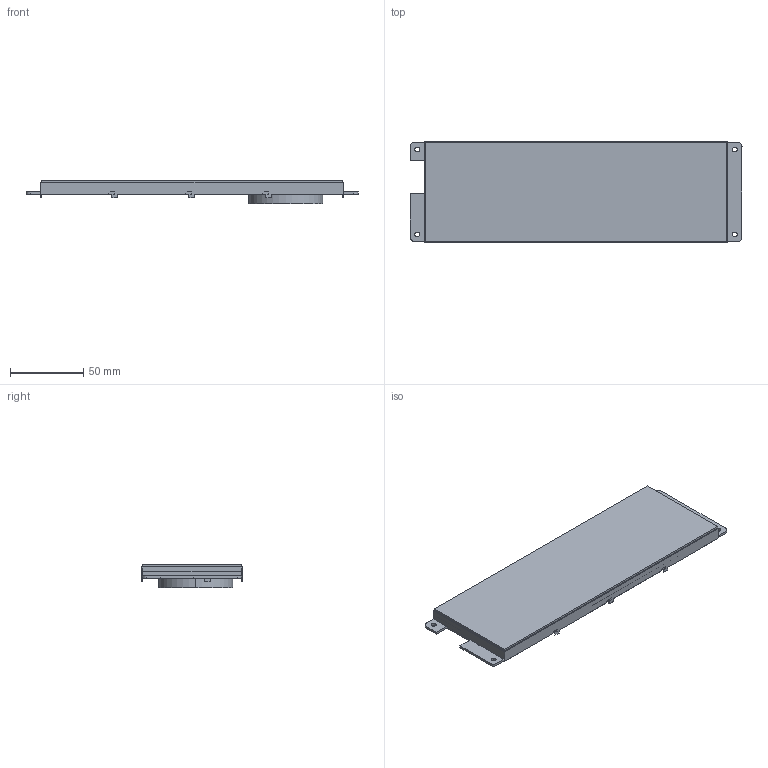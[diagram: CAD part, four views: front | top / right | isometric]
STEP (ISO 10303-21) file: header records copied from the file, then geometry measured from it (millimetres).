
FILE_DESCRIPTION((''),'2;1');
FILE_NAME('DMG12400T078-03WTR','2022-10-09T',('Administrator'),(''),'PRO/ENGINEER BY PARAMETRIC TECHNOLOGY CORPORATION, 2011310','PRO/ENGINEER BY PARAMETRIC TECHNOLOGY CORPORATION, 2011310','');
FILE_SCHEMA(('CONFIG_CONTROL_DESIGN','SHAPE_APPEARANCE_LAYERS_GROUPS'));
Products named in the file (1): DMG12400T078-03WTR
Bounding box: 226.94 x 68.9 x 16.38 mm (x, y, z)
Volume: 101888.5 mm3; surface area: 96204.6 mm2
Topology: 1 solids, 2 shells, 155 faces, 14489 edges, 15346 vertices
Faces by surface type: plane 139, cylinder 16
Entity records: 164322 total; most frequent: DIRECTION 20437, PRESENTATION_STYLE_ASSIGNMENT 18573, STYLED_ITEM 18573, CURVE_STYLE 16249, CARTESIAN_POINT 14934, TRIMMED_CURVE 14049, COMPOSITE_CURVE_SEGMENT 13129, VECTOR 8855
